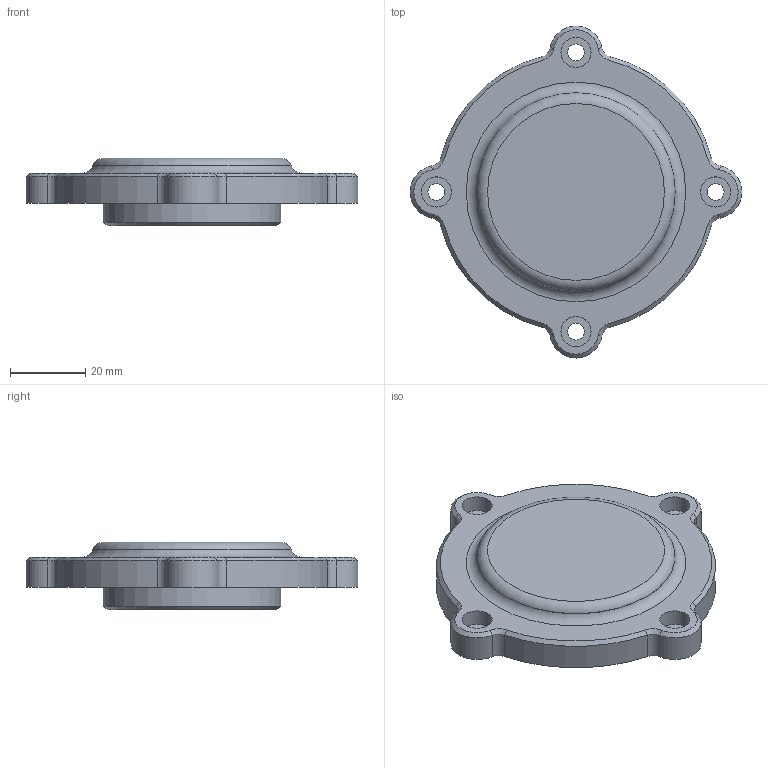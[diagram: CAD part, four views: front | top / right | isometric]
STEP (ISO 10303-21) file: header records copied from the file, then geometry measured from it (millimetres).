
FILE_DESCRIPTION(/* description */ (''),/* implementation_level */ '2;1');
FILE_NAME(/* name */ '',/* time_stamp */ '2025-08-05T11:21:21+09:00',/* author */ ('jhkim'),/* organization */ ('한국ATC센터'),/* preprocessor_version */ 'ST-DEVELOPER v20.1',/* originating_system */ 'Autodesk Inventor 2026',/* authorisation */ '');
FILE_SCHEMA (('AUTOMOTIVE_DESIGN { 1 0 10303 214 3 1 1 }'));
Length unit declared in the file: millimetre
Products named in the file (1): 뒤커버
Bounding box: 88 x 88 x 18 mm (x, y, z)
Volume: 46053.1 mm3; surface area: 13766.9 mm2
Topology: 1 solids, 1 shells, 58 faces, 124 edges, 76 vertices
Faces by surface type: cylinder 26, cone 18, plane 10, torus 4
Full cylindrical faces by diameter (mm): 4.5 x4, 8 x4, 24 x1, 47 x1
Entity records: 1647 total; most frequent: DIRECTION 322, CARTESIAN_POINT 259, ORIENTED_EDGE 248, AXIS2_PLACEMENT_3D 139, EDGE_CURVE 124, CIRCLE 80, VERTEX_POINT 76, EDGE_LOOP 74
